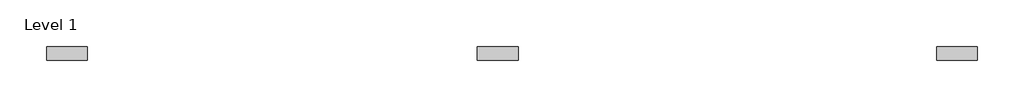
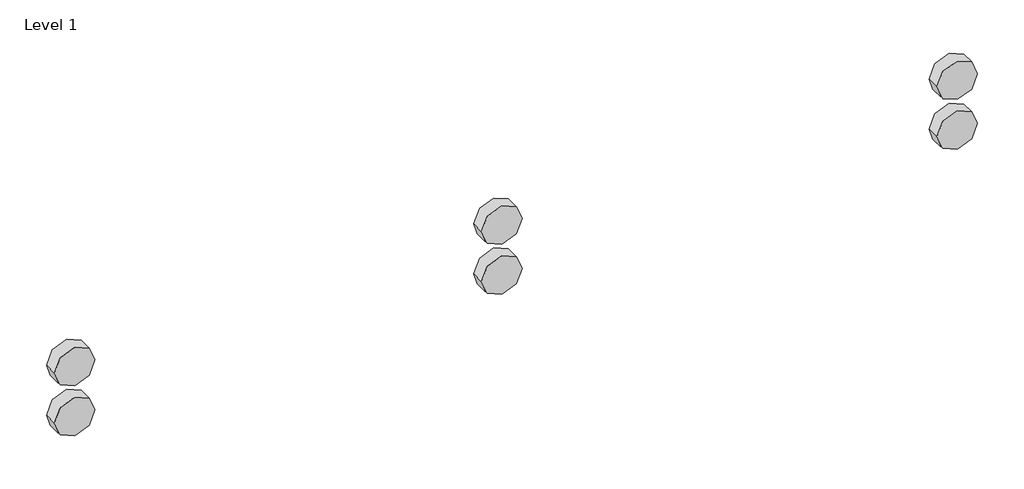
# One storey, incomplete: 6 proxies.
"""IFC4 building model written with IfcOpenShell, lengths in millimetres."""

from ifc_helpers import new_model, si_unit, origin, place, context, project, spatial, transform, mapped, element, save
from components import materialmodel_materialmodel_17b3a4fc

model = new_model("IFC4")

# Units and contexts
model_context = context("Model", 3, world=origin())
ifc_project = project(units=[si_unit("LENGTHUNIT", "METRE", prefix="MILLI")], contexts=[model_context])

# Site, building, storey
site = spatial("IfcSite", under=ifc_project)
building = spatial("IfcBuilding", under=site)
storey = spatial("IfcBuildingStorey", under=building, Name="Level 1", Elevation=0.0)

# Proxies
placement = place(None, origin())
materialmodel_materialmodel_shape = materialmodel_materialmodel_17b3a4fc(model_context)
element("IfcBuildingElementProxy", 1, Name="MaterialModel : MaterialModel", ObjectType="MaterialModel : MaterialModel", at=placement, inside=storey, context=model_context, shape_type="MappedRepresentation", body=[
    mapped(materialmodel_materialmodel_shape, transform((-6040.1325632, 2209.4764129, -647.1450474), x_axis=(1.0, 0.0, 0.0), y_axis=(0.0, 1.0, 0.0), z_axis=(0.0, 0.0, 1.0))),
])
element("IfcBuildingElementProxy", 2, Name="MaterialModel : MaterialModel", ObjectType="MaterialModel : MaterialModel", at=placement, inside=storey, context=model_context, shape_type="MappedRepresentation", body=[
    mapped(materialmodel_materialmodel_shape, transform((-6040.1622712, 2209.4764129, -842.1154545), x_axis=(1.0, 0.0, 0.0), y_axis=(0.0, 1.0, 0.0), z_axis=(0.0, 0.0, 1.0))),
])
element("IfcBuildingElementProxy", 3, Name="MaterialModel : MaterialModel", ObjectType="MaterialModel : MaterialModel", at=placement, inside=storey, context=model_context, shape_type="MappedRepresentation", body=[
    mapped(materialmodel_materialmodel_shape, transform((-4462.2346731, 2209.4764129, -647.1450474), x_axis=(1.0, 0.0, 0.0), y_axis=(0.0, 1.0, 0.0), z_axis=(0.0, 0.0, 1.0))),
])
element("IfcBuildingElementProxy", 4, Name="MaterialModel : MaterialModel", ObjectType="MaterialModel : MaterialModel", at=placement, inside=storey, context=model_context, shape_type="MappedRepresentation", body=[
    mapped(materialmodel_materialmodel_shape, transform((-4462.2643811, 2209.4764129, -842.1154545), x_axis=(1.0, 0.0, 0.0), y_axis=(0.0, 1.0, 0.0), z_axis=(0.0, 0.0, 1.0))),
])
element("IfcBuildingElementProxy", 5, Name="MaterialModel : MaterialModel", ObjectType="MaterialModel : MaterialModel", at=placement, inside=storey, context=model_context, shape_type="MappedRepresentation", body=[
    mapped(materialmodel_materialmodel_shape, transform((-2779.4470971, 2209.4764129, -670.6464654), x_axis=(1.0, 0.0, 0.0), y_axis=(0.0, 1.0, 0.0), z_axis=(0.0, 0.0, 1.0))),
])
element("IfcBuildingElementProxy", 6, Name="MaterialModel : MaterialModel", ObjectType="MaterialModel : MaterialModel", at=placement, inside=storey, context=model_context, shape_type="MappedRepresentation", body=[
    mapped(materialmodel_materialmodel_shape, transform((-2779.4768051, 2209.4764129, -865.6168724), x_axis=(1.0, 0.0, 0.0), y_axis=(0.0, 1.0, 0.0), z_axis=(0.0, 0.0, 1.0))),
])

save(model, "model.ifc")
